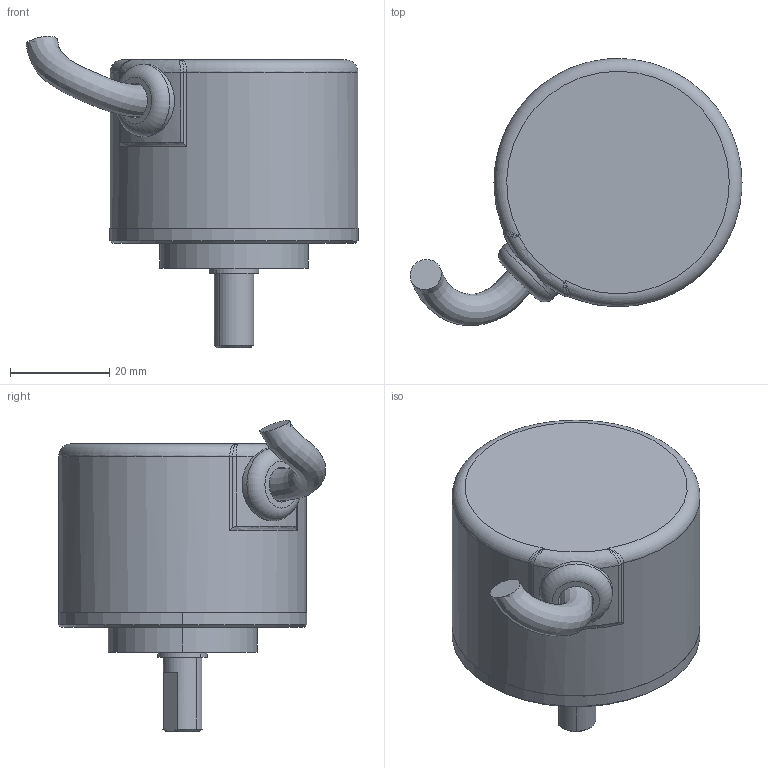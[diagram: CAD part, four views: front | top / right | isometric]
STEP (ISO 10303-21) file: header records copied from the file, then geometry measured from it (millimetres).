
FILE_DESCRIPTION(/* description */ (''),/* implementation_level */ '2;1');
FILE_NAME(/* name */ '50-8编码器3D模型.stp',/* time_stamp */ '2020-12-11T02:33:56+08:00',/* author */ (''),/* organization */ (''),/* preprocessor_version */ 'ST-DEVELOPER v16',/* originating_system */ 'SIEMENS PLM Software NX 10.0',/* authorisation */ '');
FILE_SCHEMA (('AUTOMOTIVE_DESIGN { 1 0 10303 214 3 1 1 1 }'));
Length unit declared in the file: millimetre
Products named in the file (1): XL387C98384zgs
Bounding box: 66.93 x 53.78 x 62.75 mm (x, y, z)
Volume: 37921.4 mm3; surface area: 25085.4 mm2
Topology: 5 solids, 5 shells, 187 faces, 489 edges, 301 vertices
Faces by surface type: cylinder 52, torus 49, plane 45, sphere 24, bspline 11, cone 6
Full cylindrical faces by diameter (mm): 7.051 x1, 14.622 x1, 47.436 x1, 50 x1
Entity records: 17220 total; most frequent: CARTESIAN_POINT 12667, ORIENTED_EDGE 900, DIRECTION 878, EDGE_CURVE 450, AXIS2_PLACEMENT_3D 406, VERTEX_POINT 296, CIRCLE 229, EDGE_LOOP 212
